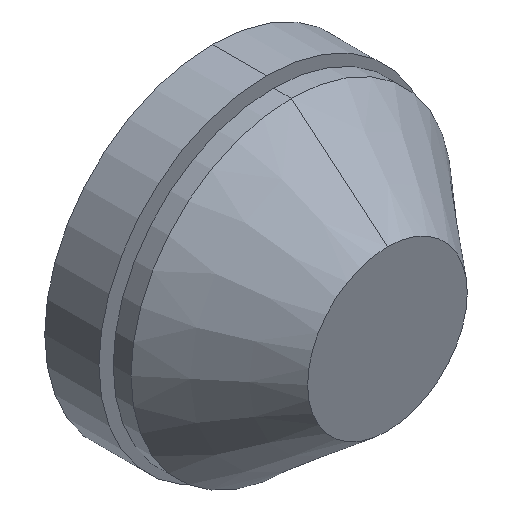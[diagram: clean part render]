
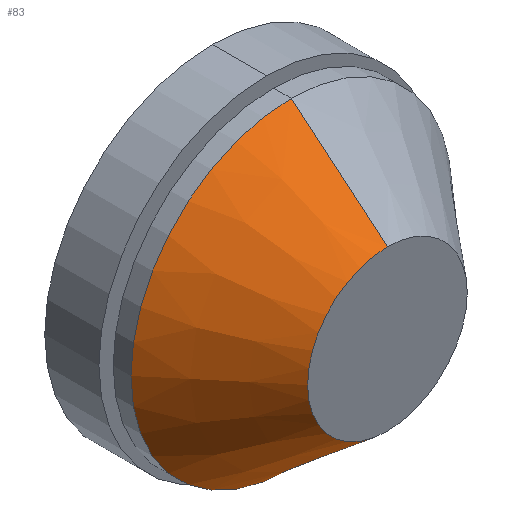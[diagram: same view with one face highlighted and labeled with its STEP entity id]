
A CAD part, isometric view. The second image highlights one B-rep face of the part: STEP entity #83.
In plain terms, the highlighted conical face has half-angle 39.929 degrees and reference radius 11.201 mm.
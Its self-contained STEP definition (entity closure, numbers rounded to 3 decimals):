
#25 = EDGE_CURVE ( 'NONE', #225, #232, #127, .T. ) ;
#28 = EDGE_CURVE ( 'NONE', #226, #223, #121, .T. ) ;
#33 = EDGE_CURVE ( 'NONE', #223, #232, #113, .T. ) ;
#39 = EDGE_CURVE ( 'NONE', #225, #226, #103, .T. ) ;
#51 = AXIS2_PLACEMENT_3D ( 'NONE', #339, #340, #345 ) ;
#56 = AXIS2_PLACEMENT_3D ( 'NONE', #196, #190, #187 ) ;
#57 = AXIS2_PLACEMENT_3D ( 'NONE', #332, #331, #198 ) ;
#83 = ADVANCED_FACE ( 'NONE', ( #105 ), #402, .T. ) ;
#103 = CIRCLE ( 'NONE', #56, 11.201 ) ;
#105 = FACE_OUTER_BOUND ( 'NONE', #253, .T. ) ;
#113 = CIRCLE ( 'NONE', #51, 22.5 ) ;
#119 = VECTOR ( 'NONE', #438, 1000. ) ;
#121 = LINE ( 'NONE', #439, #119 ) ;
#123 = VECTOR ( 'NONE', #447, 1000. ) ;
#127 = LINE ( 'NONE', #446, #123 ) ;
#187 = DIRECTION ( 'NONE',  ( 0., 0., 1. ) ) ;
#188 = CARTESIAN_POINT ( 'NONE',  ( 0., 0., 11.201 ) ) ;
#189 = CARTESIAN_POINT ( 'NONE',  ( 0., 13.5, 22.5 ) ) ;
#190 = DIRECTION ( 'NONE',  ( 0., 1., 0. ) ) ;
#196 = CARTESIAN_POINT ( 'NONE',  ( 0., 0., 0. ) ) ;
#198 = DIRECTION ( 'NONE',  ( 0., 0., 1. ) ) ;
#209 = ORIENTED_EDGE ( 'NONE', *, *, #28, .T. ) ;
#217 = ORIENTED_EDGE ( 'NONE', *, *, #39, .T. ) ;
#223 = VERTEX_POINT ( 'NONE', #189 ) ;
#225 = VERTEX_POINT ( 'NONE', #354 ) ;
#226 = VERTEX_POINT ( 'NONE', #188 ) ;
#232 = VERTEX_POINT ( 'NONE', #357 ) ;
#253 = EDGE_LOOP ( 'NONE', ( #291, #217, #209, #300 ) ) ;
#291 = ORIENTED_EDGE ( 'NONE', *, *, #25, .F. ) ;
#300 = ORIENTED_EDGE ( 'NONE', *, *, #33, .T. ) ;
#331 = DIRECTION ( 'NONE',  ( 0., 1., 0. ) ) ;
#332 = CARTESIAN_POINT ( 'NONE',  ( 0., 0., 0. ) ) ;
#339 = CARTESIAN_POINT ( 'NONE',  ( 0., 13.5, 0. ) ) ;
#340 = DIRECTION ( 'NONE',  ( 0., -1., 0. ) ) ;
#345 = DIRECTION ( 'NONE',  ( 0., 0., -1. ) ) ;
#354 = CARTESIAN_POINT ( 'NONE',  ( 0., 0., -11.201 ) ) ;
#357 = CARTESIAN_POINT ( 'NONE',  ( 0., 13.5, -22.5 ) ) ;
#402 = CONICAL_SURFACE ( 'NONE', #57, 11.201, 0.697 ) ;
#438 = DIRECTION ( 'NONE',  ( 0., 0.767, 0.642 ) ) ;
#439 = CARTESIAN_POINT ( 'NONE',  ( 0., 0., 11.201 ) ) ;
#446 = CARTESIAN_POINT ( 'NONE',  ( 0., 0., -11.201 ) ) ;
#447 = DIRECTION ( 'NONE',  ( 0., 0.767, -0.642 ) ) ;
